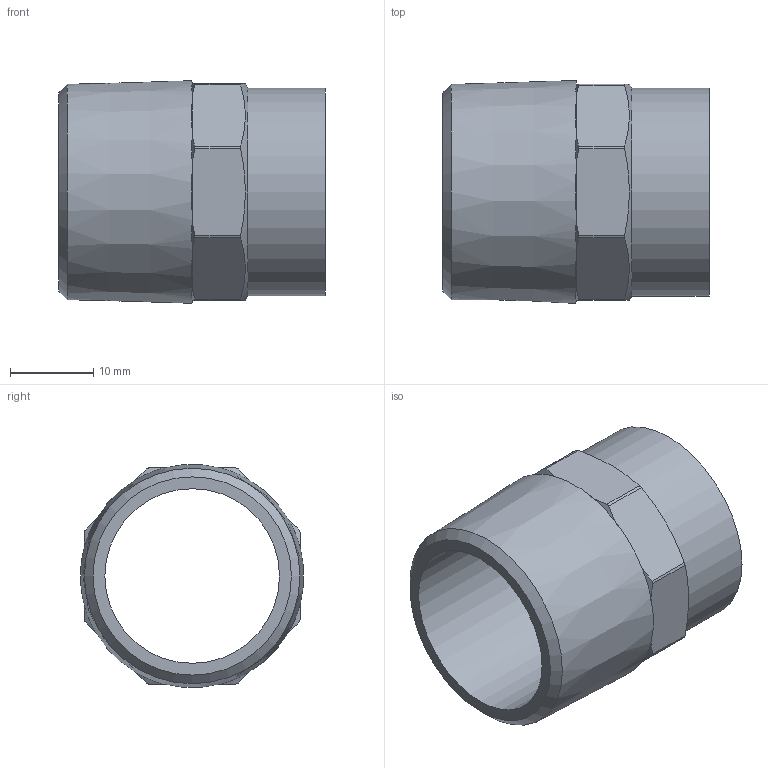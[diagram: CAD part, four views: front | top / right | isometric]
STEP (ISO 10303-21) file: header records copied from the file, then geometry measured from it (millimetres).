
FILE_DESCRIPTION((''),'2;1');
FILE_NAME('\\Lg50001\Groups\SANHA Legnica\Engineering\Public\RYSUNKI\SANHA POLSKA\4243G\step\14243_22-34(2).stp','2008-08-25T13:38:19',('pajchrowski'),(''),'Autodesk Inventor 2008','Autodesk Inventor 2008','');
FILE_SCHEMA(('AUTOMOTIVE_DESIGN { 1 0 10303 214 1 1 1 1 }'));
Length unit declared in the file: millimetre
Products named in the file (1): 14243_22-34(2)
Bounding box: 32 x 26.8 x 26.76 mm (x, y, z)
Volume: 5358.5 mm3; surface area: 5125.7 mm2
Topology: 1 solids, 1 shells, 41 faces, 96 edges, 58 vertices
Faces by surface type: plane 19, cone 11, cylinder 11
Full cylindrical faces by diameter (mm): 21 x1, 22 x1, 25 x1
Entity records: 1124 total; most frequent: CARTESIAN_POINT 234, DIRECTION 188, ORIENTED_EDGE 176, EDGE_CURVE 88, AXIS2_PLACEMENT_3D 82, VERTEX_POINT 56, EDGE_LOOP 50, FACE_OUTER_BOUND 41
